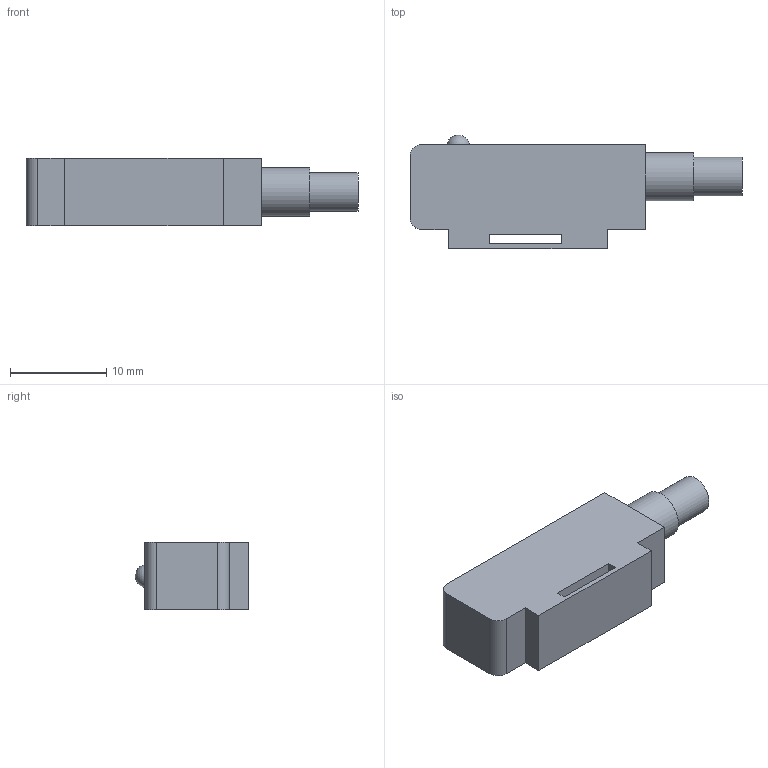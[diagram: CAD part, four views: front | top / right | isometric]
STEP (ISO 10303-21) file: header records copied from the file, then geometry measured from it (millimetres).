
FILE_DESCRIPTION( ( 'STEP AP214' ), '1' );
FILE_NAME( 'C:/Users/emc02044/Desktop/感应开关/HX-13/HX-13-N-5M.stp', '2026-08-20T04:07:05', ( 'License CC BY-ND 4.0' ), ( 'CADENAS' ), ' ', 'PARTsolutions', ' ' );
FILE_SCHEMA( ( 'AUTOMOTIVE_DESIGN { 1 0 10303 214 1 1 1 1 }' ) );
Length unit declared in the file: millimetre
Products named in the file (1): _HX-13-N-5M
Bounding box: 34.5 x 11.8 x 7 mm (x, y, z)
Volume: 1847.1 mm3; surface area: 1231.5 mm2
Topology: 1 solids, 1 shells, 21 faces, 52 edges, 35 vertices
Faces by surface type: plane 16, cylinder 4, sphere 1
Full cylindrical faces by diameter (mm): 4 x1, 5 x1
Entity records: 782 total; most frequent: CARTESIAN_POINT 103, DIRECTION 100, ORIENTED_EDGE 94, EDGE_CURVE 47, LINE 38, VECTOR 38, VERTEX_POINT 34, AXIS2_PLACEMENT_3D 31
